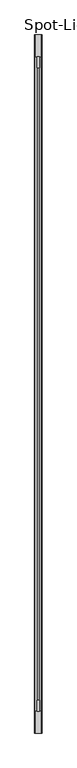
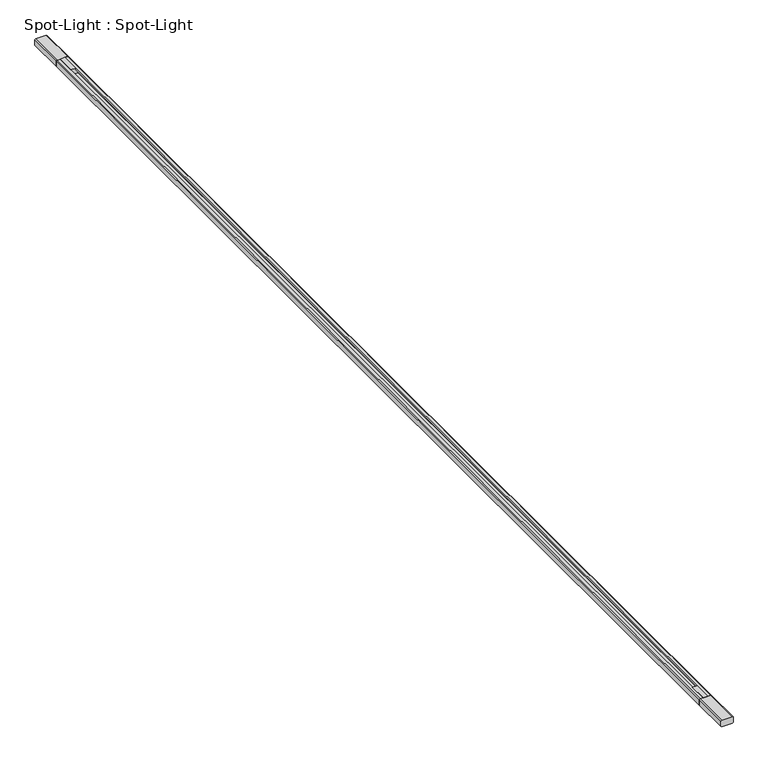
"""IFC4 building model written with IfcOpenShell, lengths in millimetres: light fixture geometry, Spot-Light : Spot-Light."""

from ifc_helpers import new_model, si_unit, frame, origin, place, context, project, spatial, polyline, outline, extrude, source, transform, mapped, element, save


def spot_light_spot_light_ad288893(model_context):
    return source(origin(), model_context, "Body", "SweptSolid", [
        extrude(outline(polyline([(19.0002441, -6.5002441), (15.5004883, -6.5002441), (15.5004883, -12.9992664), (3.500061, -12.9992652), (3.500061, 12.99927), (15.5004883, 12.99927), (15.5004883, 6.5002441), (19.0002441, 6.5002441), (19.0002441, -6.5002441)])), frame((0.0, 1450.0, 0.0), z_axis=(0.0, 1.0, 0.0), x_axis=(0.0, 0.0, 1.0)), (0.0, 0.0, 1.0), 50.0),
        extrude(outline(polyline([(19.0005493, -14.6994006), (17.2003174, -16.5002429), (1.7999268, -16.5002406), (0.0, -14.6997035), (0.0, 14.6997094), (1.7999268, 16.5002465), (17.2003174, 16.5002465), (19.0005493, 14.6994041), (19.0005493, -14.6994006)])), frame((0.0, 1500.0, 0.0), z_axis=(0.0, 1.0, 0.0), x_axis=(0.0, 0.0, 1.0)), (0.0, 0.0, 1.0), 100.0),
        extrude(outline(polyline([(19.0002441, -6.5002441), (15.5004883, -6.5002441), (15.5004883, -12.9992664), (3.500061, -12.9992652), (3.500061, 12.99927), (15.5004883, 12.99927), (15.5004883, 6.5002441), (19.0002441, 6.5002441), (19.0002441, -6.5002441)])), frame((0.0, -1500.0, 0.0), z_axis=(0.0, 1.0, 0.0), x_axis=(0.0, 0.0, 1.0)), (0.0, 0.0, 1.0), 50.0),
        extrude(outline(polyline([(19.0005493, -14.6994006), (17.2003174, -16.5002429), (1.7999268, -16.5002406), (0.0, -14.6997035), (0.0, 14.6997094), (1.7999268, 16.5002465), (17.2003174, 16.5002465), (19.0005493, 14.6994041), (19.0005493, -14.6994006)])), frame((0.0, -1600.0, 0.0), z_axis=(0.0, 1.0, 0.0), x_axis=(0.0, 0.0, 1.0)), (0.0, 0.0, 1.0), 100.0),
        extrude(outline(polyline([(19.0002441, 6.5002441), (15.5004883, 6.5002441), (15.5004883, 12.99927), (3.500061, 12.99927), (3.500061, -12.9992652), (15.5004883, -12.9992664), (15.5004883, -6.5002441), (19.0002441, -6.5002441), (19.0002441, -14.6997058), (17.2003174, -16.5002429), (1.7999268, -16.5002406), (0.0, -14.6997035), (0.0, 14.6997094), (1.7999268, 16.5002465), (17.2003174, 16.5002465), (19.0002441, 14.6997094), (19.0002441, 6.5002441)])), frame((0.0, -1500.0, 0.0), z_axis=(0.0, 1.0, 0.0), x_axis=(0.0, 0.0, 1.0)), (0.0, 0.0, 1.0), 3000.0),
    ])


if __name__ == "__main__":
    model = new_model("IFC4")
    model_context = context("Model", 3, world=origin())
    ifc_project = project(units=[si_unit("LENGTHUNIT", "METRE", prefix="MILLI")], contexts=[model_context])
    site = spatial("IfcSite", under=ifc_project)
    building = spatial("IfcBuilding", under=site)
    placement = place(None, origin())
    spot_light_spot_light_shape = spot_light_spot_light_ad288893(model_context)
    element("IfcLightFixture", 1, ObjectType="Spot-Light : Spot-Light", at=placement, inside=building, context=model_context, shape_type="MappedRepresentation", body=[
        mapped(spot_light_spot_light_shape, transform((0.0, 0.0, 0.0), x_axis=(1.0, 0.0, 0.0), y_axis=(0.0, 1.0, 0.0), z_axis=(0.0, 0.0, 1.0))),
    ])
    save(model, "model.ifc")
